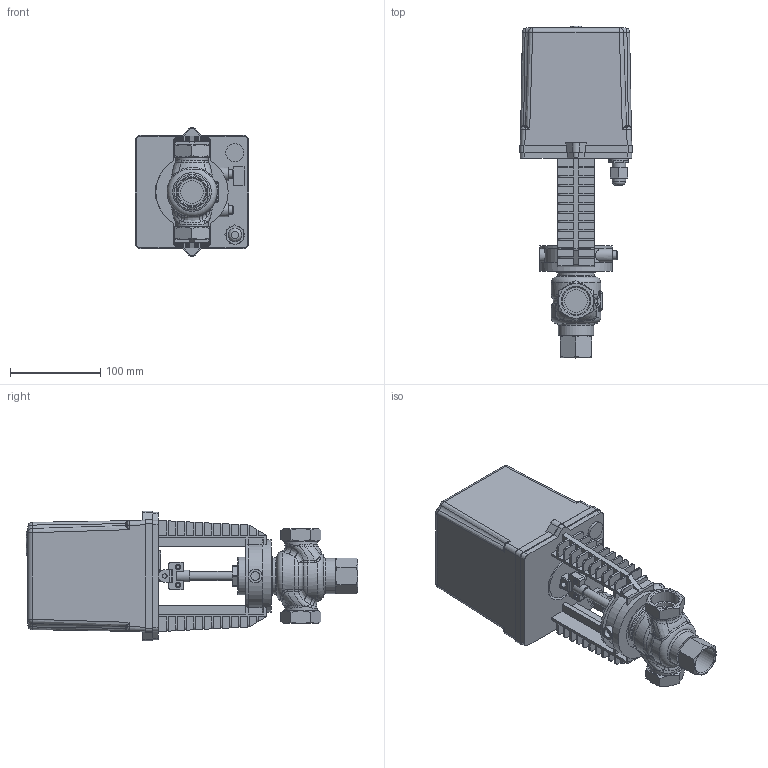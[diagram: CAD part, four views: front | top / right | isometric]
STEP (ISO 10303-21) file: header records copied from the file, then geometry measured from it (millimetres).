
FILE_DESCRIPTION(/* description */ ('D230-11265','CAx-IF Rec.Pracs.---Representation and Presentation of Product Manufacturing Information (PMI)---4.0---2014-10-13'),/* implementation_level */ '2;1');
FILE_NAME(/* name */ '',/* time_stamp */ '2026-04-07T14:34:58+03:00',/* author */ ('DN.RU'),/* organization */ ('DN.RU'),/* preprocessor_version */ 'ST-DEVELOPER v20',/* originating_system */ 'Autodesk Inventor 2025',/* authorisation */ '');
FILE_SCHEMA (('AP242_MANAGED_MODEL_BASED_3D_ENGINEERING_MIM_LF { 1 0 10303 442 1 1 4 }'));
Length unit declared in the file: millimetre
Products named in the file (1): VRg3M/S-31M-PED-T
Bounding box: 125 x 367 x 142.97 mm (x, y, z)
Volume: 2502989.1 mm3; surface area: 217325.4 mm2
Topology: 1 solids, 3 shells, 1082 faces, 2878 edges, 1836 vertices
Faces by surface type: plane 582, bspline 220, cylinder 178, cone 46, torus 38, sphere 18
Full cylindrical faces by diameter (mm): 5 x4, 6 x2, 8 x3, 8.5 x2, 10 x6, 13 x1, 15 x4, 18 x1, 20 x1, 25 x3, 30.29 x3, 36.29 x2, 39 x1, 40 x1, 42 x1, 44 x1, 45 x1, 50 x1, 55 x2, 80 x1
Entity records: 39262 total; most frequent: CARTESIAN_POINT 12457, ORIENTED_EDGE 5722, DIRECTION 4722, EDGE_CURVE 2861, VERTEX_POINT 1836, LINE 1674, VECTOR 1674, AXIS2_PLACEMENT_3D 1524
